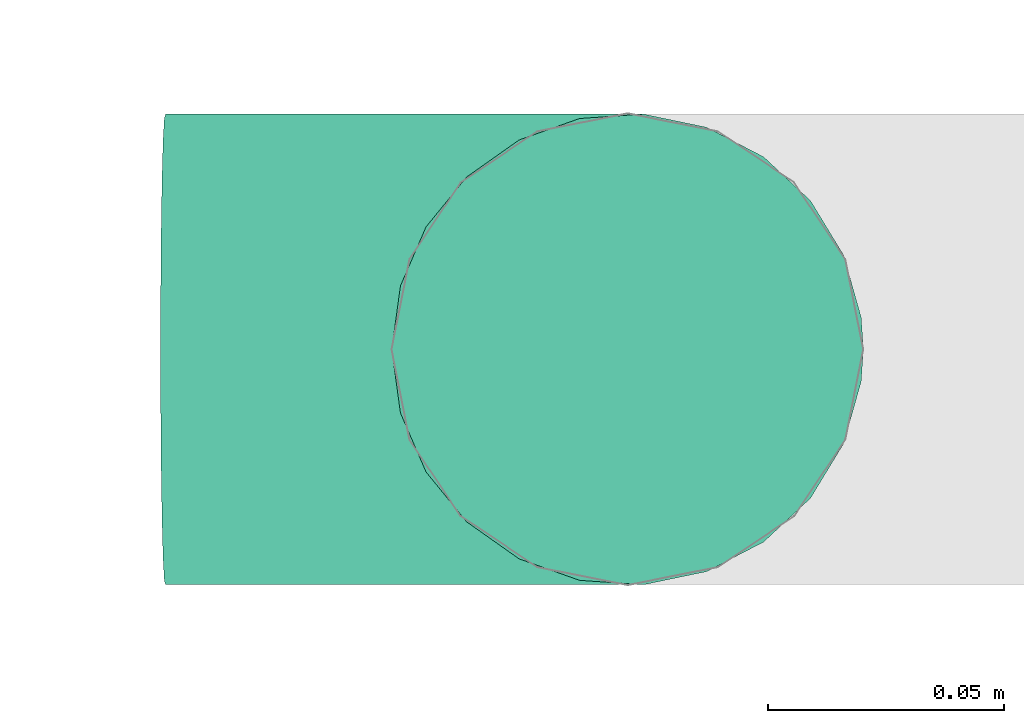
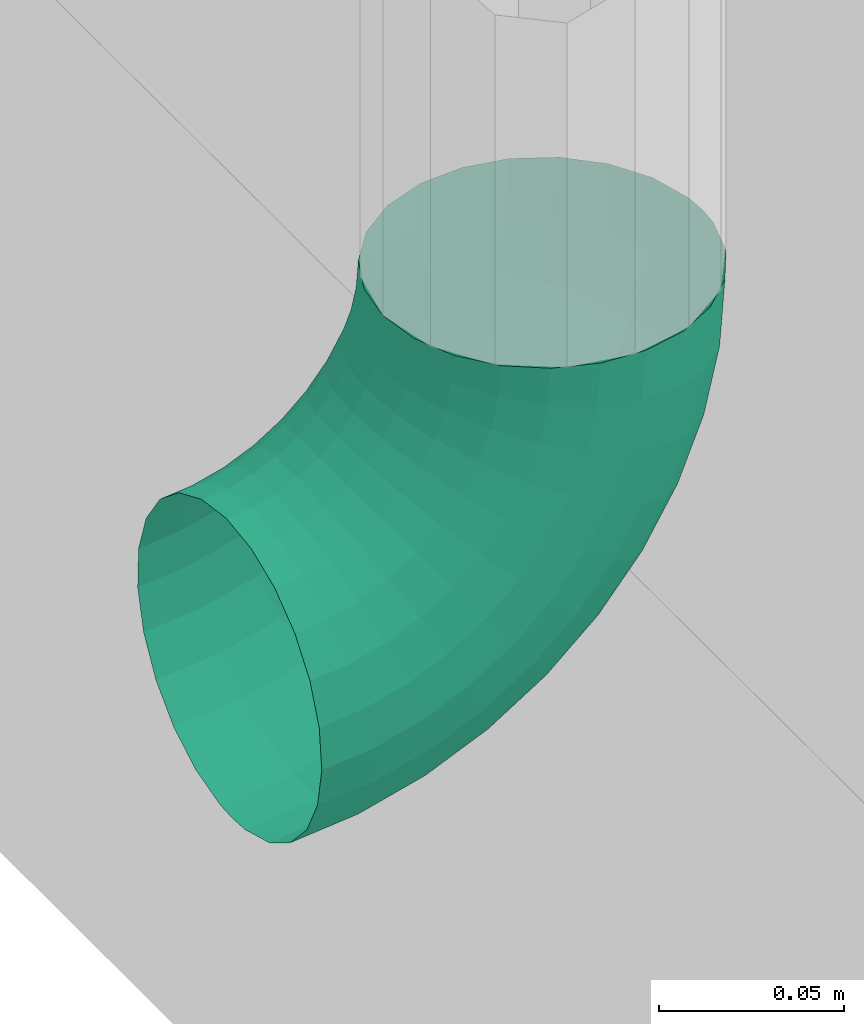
# One storey, part 79 of 106: 1 flow fitting.
"""IFC2X3 building model written with IfcOpenShell, lengths in metres."""

from ifc_helpers import new_model, entity, si_unit, converted_unit, derived_unit, money_unit, direction, frame, origin_with_axes, place, context, subcontext, project, spatial, open_shell, surface_model, material, type_object, element, save


model = new_model("IFC2X3")

# Units and contexts
model_context = context("Model", 3, precision=1e-05, world=origin_with_axes(), true_north=direction((0.0, 1.0)))
body_context = subcontext(model_context, "Body", "Model", "MODEL_VIEW", scale=1.0)
ifc_project = project(units=[si_unit("LENGTHUNIT", "METRE"), si_unit("AREAUNIT", "SQUARE_METRE"), si_unit("VOLUMEUNIT", "CUBIC_METRE"), si_unit("ABSORBEDDOSEUNIT", "GRAY"), si_unit("AMOUNTOFSUBSTANCEUNIT", "MOLE"), si_unit("DOSEEQUIVALENTUNIT", "SIEVERT"), si_unit("ELECTRICCAPACITANCEUNIT", "FARAD"), si_unit("ELECTRICCHARGEUNIT", "COULOMB"), si_unit("ELECTRICCONDUCTANCEUNIT", "SIEMENS"), si_unit("ELECTRICCURRENTUNIT", "AMPERE"), si_unit("ELECTRICRESISTANCEUNIT", "OHM"), si_unit("ELECTRICVOLTAGEUNIT", "VOLT"), si_unit("ENERGYUNIT", "JOULE"), si_unit("FORCEUNIT", "NEWTON"), si_unit("FREQUENCYUNIT", "HERTZ"), si_unit("ILLUMINANCEUNIT", "LUX"), si_unit("INDUCTANCEUNIT", "HENRY"), si_unit("LUMINOUSFLUXUNIT", "LUMEN"), si_unit("LUMINOUSINTENSITYUNIT", "CANDELA"), si_unit("MAGNETICFLUXDENSITYUNIT", "TESLA"), si_unit("MAGNETICFLUXUNIT", "WEBER"), si_unit("MASSUNIT", "GRAM"), converted_unit("PLANEANGLEUNIT", "degree", entity("IfcReal", 0.0174532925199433), si_unit("PLANEANGLEUNIT", "RADIAN"), dimensions=[0, 0, 0, 0, 0, 0, 0]), si_unit("POWERUNIT", "WATT"), si_unit("PRESSUREUNIT", "PASCAL"), si_unit("RADIOACTIVITYUNIT", "BECQUEREL"), si_unit("SOLIDANGLEUNIT", "STERADIAN"), si_unit("THERMODYNAMICTEMPERATUREUNIT", "KELVIN"), si_unit("TIMEUNIT", "SECOND"), derived_unit("ACCELERATIONUNIT", [(si_unit("LENGTHUNIT", "METRE"), 1), (si_unit("TIMEUNIT", "SECOND"), -2)]), derived_unit("ANGULARVELOCITYUNIT", [(converted_unit("PLANEANGLEUNIT", "degree", entity("IfcReal", 0.0174532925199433), si_unit("PLANEANGLEUNIT", "RADIAN"), dimensions=[0, 0, 0, 0, 0, 0, 0]), 1), (si_unit("TIMEUNIT", "SECOND"), -1)]), derived_unit("CURVATUREUNIT", [(converted_unit("PLANEANGLEUNIT", "degree", entity("IfcReal", 0.0174532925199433), si_unit("PLANEANGLEUNIT", "RADIAN"), dimensions=[0, 0, 0, 0, 0, 0, 0]), 1), (si_unit("LENGTHUNIT", "METRE"), -1)]), derived_unit("DYNAMICVISCOSITYUNIT", [(si_unit("PRESSUREUNIT", "PASCAL"), 1), (si_unit("TIMEUNIT", "SECOND"), 1)]), derived_unit("HEATFLUXDENSITYUNIT", [(si_unit("POWERUNIT", "WATT"), 1), (si_unit("LENGTHUNIT", "METRE"), -2)]), derived_unit("HEATINGVALUEUNIT", [(si_unit("ENERGYUNIT", "JOULE"), 1), (si_unit("MASSUNIT", "GRAM"), -1)]), derived_unit("INTEGERCOUNTRATEUNIT", [(si_unit("TIMEUNIT", "SECOND"), -1)]), derived_unit("IONCONCENTRATIONUNIT", [(si_unit("MASSUNIT", "GRAM"), 1), (si_unit("VOLUMEUNIT", "CUBIC_METRE"), -1)]), derived_unit("ISOTHERMALMOISTURECAPACITYUNIT", [(si_unit("VOLUMEUNIT", "CUBIC_METRE"), 1), (si_unit("MASSUNIT", "GRAM"), -1)]), derived_unit("KINEMATICVISCOSITYUNIT", [(si_unit("AREAUNIT", "SQUARE_METRE"), 1), (si_unit("TIMEUNIT", "SECOND"), -1)]), derived_unit("LINEARFORCEUNIT", [(si_unit("FORCEUNIT", "NEWTON"), 1), (si_unit("LENGTHUNIT", "METRE"), -1)]), derived_unit("LINEARMOMENTUNIT", [(si_unit("FORCEUNIT", "NEWTON"), 1), (si_unit("LENGTHUNIT", "METRE"), -1)]), derived_unit("LINEARSTIFFNESSUNIT", [(si_unit("FORCEUNIT", "NEWTON"), 1), (si_unit("LENGTHUNIT", "METRE"), -1)]), derived_unit("LINEARVELOCITYUNIT", [(si_unit("LENGTHUNIT", "METRE"), 1), (si_unit("TIMEUNIT", "SECOND"), -1)]), derived_unit("LUMINOUSINTENSITYDISTRIBUTIONUNIT", [(si_unit("LUMINOUSINTENSITYUNIT", "CANDELA"), 1), (si_unit("LUMINOUSFLUXUNIT", "LUMEN"), -1)]), derived_unit("MASSDENSITYUNIT", [(si_unit("MASSUNIT", "GRAM"), 1), (si_unit("VOLUMEUNIT", "CUBIC_METRE"), -1)]), derived_unit("MASSFLOWRATEUNIT", [(si_unit("MASSUNIT", "GRAM"), 1), (si_unit("TIMEUNIT", "SECOND"), -1)]), derived_unit("MASSPERLENGTHUNIT", [(si_unit("MASSUNIT", "GRAM"), 1), (si_unit("LENGTHUNIT", "METRE"), -1)]), derived_unit("MODULUSOFELASTICITYUNIT", [(si_unit("FORCEUNIT", "NEWTON"), 1), (si_unit("AREAUNIT", "SQUARE_METRE"), -1)]), derived_unit("MODULUSOFLINEARSUBGRADEREACTIONUNIT", [(si_unit("FORCEUNIT", "NEWTON"), 1), (si_unit("LENGTHUNIT", "METRE"), -2)]), derived_unit("MODULUSOFROTATIONALSUBGRADEREACTIONUNIT", [(si_unit("FORCEUNIT", "NEWTON"), 1), (si_unit("LENGTHUNIT", "METRE"), 1)]), derived_unit("MODULUSOFSUBGRADEREACTIONUNIT", [(si_unit("FORCEUNIT", "NEWTON"), 1), (si_unit("VOLUMEUNIT", "CUBIC_METRE"), -1)]), derived_unit("MOISTUREDIFFUSIVITYUNIT", [(si_unit("VOLUMEUNIT", "CUBIC_METRE"), 1), (si_unit("TIMEUNIT", "SECOND"), -1)]), derived_unit("MOLECULARWEIGHTUNIT", [(si_unit("MASSUNIT", "GRAM"), 1), (si_unit("AMOUNTOFSUBSTANCEUNIT", "MOLE"), -1)]), derived_unit("PLANARFORCEUNIT", [(si_unit("FORCEUNIT", "NEWTON"), 1), (si_unit("LENGTHUNIT", "METRE"), -2)]), derived_unit("ROTATIONALFREQUENCYUNIT", [(si_unit("TIMEUNIT", "SECOND"), -1)]), derived_unit("ROTATIONALMASSUNIT", [(si_unit("MASSUNIT", "GRAM"), 1), (si_unit("LENGTHUNIT", "METRE"), 2)]), derived_unit("ROTATIONALSTIFFNESSUNIT", [(si_unit("FORCEUNIT", "NEWTON"), 1), (si_unit("LENGTHUNIT", "METRE"), 1), (converted_unit("PLANEANGLEUNIT", "degree", entity("IfcReal", 0.0174532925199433), si_unit("PLANEANGLEUNIT", "RADIAN"), dimensions=[0, 0, 0, 0, 0, 0, 0]), -1)]), derived_unit("SECTIONAREAINTEGRALUNIT", [(si_unit("LENGTHUNIT", "METRE"), 5)]), derived_unit("SECTIONMODULUSUNIT", [(si_unit("LENGTHUNIT", "METRE"), 3)]), derived_unit("SHEARMODULUSUNIT", [(si_unit("FORCEUNIT", "NEWTON"), 1), (si_unit("AREAUNIT", "SQUARE_METRE"), -1)]), derived_unit("SOUNDPOWERUNIT", [(si_unit("ENERGYUNIT", "JOULE"), 1), (si_unit("TIMEUNIT", "SECOND"), -1)]), derived_unit("SPECIFICHEATCAPACITYUNIT", [(si_unit("FORCEUNIT", "NEWTON"), 1), (si_unit("MASSUNIT", "GRAM"), -1), (si_unit("THERMODYNAMICTEMPERATUREUNIT", "KELVIN"), -1)]), derived_unit("TEMPERATUREGRADIENTUNIT", [(si_unit("THERMODYNAMICTEMPERATUREUNIT", "KELVIN"), 1), (si_unit("LENGTHUNIT", "METRE"), -1)]), derived_unit("THERMALADMITTANCEUNIT", [(si_unit("POWERUNIT", "WATT"), 1), (si_unit("AREAUNIT", "SQUARE_METRE"), -1), (si_unit("THERMODYNAMICTEMPERATUREUNIT", "KELVIN"), -1)]), derived_unit("THERMALCONDUCTANCEUNIT", [(si_unit("POWERUNIT", "WATT"), 1), (si_unit("LENGTHUNIT", "METRE"), -1), (si_unit("THERMODYNAMICTEMPERATUREUNIT", "KELVIN"), -1)]), derived_unit("THERMALEXPANSIONCOEFFICIENTUNIT", [(si_unit("THERMODYNAMICTEMPERATUREUNIT", "KELVIN"), -1)]), derived_unit("THERMALRESISTANCEUNIT", [(si_unit("AREAUNIT", "SQUARE_METRE"), 1), (si_unit("POWERUNIT", "WATT"), -1)]), derived_unit("THERMALTRANSMITTANCEUNIT", [(si_unit("POWERUNIT", "WATT"), 1), (si_unit("AREAUNIT", "SQUARE_METRE"), -1), (si_unit("THERMODYNAMICTEMPERATUREUNIT", "KELVIN"), -1)]), derived_unit("TORQUEUNIT", [(si_unit("FORCEUNIT", "NEWTON"), 1), (si_unit("LENGTHUNIT", "METRE"), 1)]), derived_unit("VAPORPERMEABILITYUNIT", [(si_unit("MASSUNIT", "GRAM"), 1), (si_unit("TIMEUNIT", "SECOND"), -1)]), derived_unit("VOLUMETRICFLOWRATEUNIT", [(si_unit("VOLUMEUNIT", "CUBIC_METRE"), 1), (si_unit("TIMEUNIT", "SECOND"), -1)]), derived_unit("WARPINGCONSTANTUNIT", [(si_unit("LENGTHUNIT", "METRE"), 6)]), derived_unit("WARPINGMOMENTUNIT", [(si_unit("FORCEUNIT", "NEWTON"), 1), (si_unit("LENGTHUNIT", "METRE"), 2)]), money_unit("GBP")], contexts=[model_context])

# Site, building, storey
site_placement = place(None, origin_with_axes())
site = spatial("IfcSite", under=ifc_project, at=site_placement, Name="Site", CompositionType="ELEMENT")
building_placement = place(site_placement, origin_with_axes())
building = spatial("IfcBuilding", under=site, at=building_placement, Name="Building01", CompositionType="ELEMENT")
storey_placement = place(building_placement, origin_with_axes())
storey = spatial("IfcBuildingStorey", under=building, at=storey_placement, Name="GF", CompositionType="ELEMENT", Elevation=0.0)

# Flow fitting
ifc_material = material(Name="M_BSUK_ColdWater")
pipe_fitting_type = type_object("IfcPipeFittingType", Name="M-BmpElbow-DefaultElbow", PredefinedType="BEND")
flow_fitting_placement = place(storey_placement, frame((-0.197373, 14.95, -0.031896), z_axis=(0.01999682, 0.0, -0.99980004), x_axis=(0.99980004, 0.0, 0.01999682)))
element("IfcFlowFitting", 1, at=flow_fitting_placement, inside=storey, type_object=pipe_fitting_type, material=ifc_material, Name="M-BmpElbow-DefaultElbow", ObjectType="M-BmpElbow-DefaultElbow", context=body_context, shape_type="SurfaceModel", body=[
    surface_model("IfcShellBasedSurfaceModel", [(0.008009, -0.01349, -0.048768), (0.0, -0.01349, -0.048146), (0.0, 0.0, -0.05), (0.007723, 0.0, -0.0506), (0.015826, -0.01349, -0.05062), (0.015261, 0.0, -0.052386), (0.023264, -0.01349, -0.053657), (0.022432, 0.0, -0.055314), (0.030143, -0.01349, -0.057807), (0.029065, 0.0, -0.059315), (0.036298, -0.01349, -0.062969), (0.035, 0.0, -0.064293), (0.041582, -0.01349, -0.06902), (0.040095, 0.0, -0.070127), (0.045868, -0.01349, -0.075814), (0.044228, 0.0, -0.076679), (0.049054, -0.01349, -0.083189), (0.0473, 0.0, -0.08379), (0.051061, -0.01349, -0.090968), (0.049236, 0.0, -0.091291), (0.051844, -0.01349, -0.098963), (0.04999, 0.0, -0.099), (0.008847, -0.025979, -0.043408), (0.0, -0.025979, -0.042721), (0.017482, -0.025979, -0.045454), (0.025697, -0.025979, -0.048809), (0.033296, -0.025979, -0.053392), (0.040095, -0.025979, -0.059095), (0.045932, -0.025979, -0.065779), (0.050667, -0.025979, -0.073284), (0.054185, -0.025979, -0.081431), (0.056403, -0.025979, -0.090023), (0.057268, -0.025979, -0.098855), (0.010175, -0.036542, -0.034918), (0.0, -0.036542, -0.034128), (0.020105, -0.036542, -0.037271), (0.029553, -0.036542, -0.041129), (0.038291, -0.036542, -0.0464), (0.046111, -0.036542, -0.052958), (0.052823, -0.036542, -0.060645), (0.058268, -0.036542, -0.069276), (0.062315, -0.036542, -0.078645), (0.064865, -0.036542, -0.088526), (0.065859, -0.036542, -0.098683), (0.011893, -0.044394, -0.023927), (0.0, -0.044394, -0.023003), (0.0235, -0.044394, -0.026677), (0.034544, -0.044394, -0.031187), (0.044758, -0.044394, -0.037348), (0.053898, -0.044394, -0.045013), (0.061744, -0.044394, -0.053998), (0.068109, -0.044394, -0.064087), (0.072838, -0.044394, -0.075038), (0.07582, -0.044394, -0.086588), (0.076981, -0.044394, -0.09846), (0.013875, -0.048954, -0.011251), (0.0, -0.048954, -0.010173), (0.027416, -0.048954, -0.014459), (0.0403, -0.048954, -0.01972), (0.052216, -0.048954, -0.026908), (0.062879, -0.048954, -0.035851), (0.072033, -0.048954, -0.046333), (0.079458, -0.048954, -0.058103), (0.084976, -0.048954, -0.070879), (0.088454, -0.048954, -0.084353), (0.089809, -0.048954, -0.098204), (0.015973, -0.049883, 0.002171), (0.0, -0.049883, 0.003412), (0.031562, -0.049883, -0.001522), (0.046394, -0.049883, -0.007579), (0.060113, -0.049883, -0.015854), (0.072389, -0.049883, -0.026149), (0.082927, -0.049883, -0.038216), (0.091475, -0.049883, -0.051767), (0.097827, -0.049883, -0.066475), (0.101831, -0.049883, -0.081987), (0.103391, -0.049883, -0.097932), (0.018032, -0.047113, 0.015343), (0.0, -0.047113, 0.016744), (0.035632, -0.047113, 0.011174), (0.052376, -0.047113, 0.004336), (0.067863, -0.047113, -0.005006), (0.081721, -0.047113, -0.016628), (0.093618, -0.047113, -0.030251), (0.103268, -0.047113, -0.045548), (0.110439, -0.047113, -0.062153), (0.114959, -0.047113, -0.079665), (0.116721, -0.047113, -0.097665), (0.0199, -0.040848, 0.027288), (0.0, -0.040848, 0.028834), (0.039322, -0.040848, 0.022687), (0.0578, -0.040848, 0.015141), (0.074891, -0.040848, 0.004831), (0.090184, -0.040848, -0.007994), (0.103313, -0.040848, -0.023028), (0.113962, -0.040848, -0.039909), (0.121876, -0.040848, -0.058233), (0.126865, -0.040848, -0.077559), (0.128808, -0.040848, -0.097424), (0.021437, -0.031554, 0.03712), (0.0, -0.031554, 0.038786), (0.042359, -0.031554, 0.032163), (0.062264, -0.031554, 0.024035), (0.080675, -0.031554, 0.012929), (0.09715, -0.031554, -0.000887), (0.111293, -0.031554, -0.017083), (0.122765, -0.031554, -0.035268), (0.13129, -0.031554, -0.055007), (0.136664, -0.031554, -0.075826), (0.138758, -0.031554, -0.097225), (0.022529, -0.01992, 0.04411), (0.0, -0.01992, 0.045861), (0.044518, -0.01992, 0.038901), (0.065438, -0.01992, 0.030358), (0.084788, -0.01992, 0.018686), (0.102103, -0.01992, 0.004165), (0.116966, -0.01992, -0.012856), (0.129023, -0.01992, -0.031968), (0.137983, -0.01992, -0.052713), (0.143631, -0.01992, -0.074593), (0.145831, -0.01992, -0.097083), (0.023097, -0.006808, 0.04774), (0.0, -0.006808, 0.049534), (0.045639, -0.006808, 0.042399), (0.067087, -0.006808, 0.033641), (0.086924, -0.006808, 0.021675), (0.104674, -0.006808, 0.006789), (0.119912, -0.006808, -0.010661), (0.132273, -0.006808, -0.030254), (0.141458, -0.006808, -0.051522), (0.147248, -0.006808, -0.073953), (0.149504, -0.006808, -0.09701), (0.0, 0.0, 0.05), (0.045639, 0.006808, 0.042399), (0.023097, 0.006808, 0.04774), (0.067087, 0.006808, 0.033641), (0.086924, 0.006808, 0.021675), (0.104674, 0.006808, 0.006789), (0.119912, 0.006808, -0.010661), (0.132273, 0.006808, -0.030254), (0.141458, 0.006808, -0.051522), (0.147248, 0.006808, -0.073953), (0.14997, 0.0, -0.097), (0.149504, 0.006808, -0.09701), (0.022529, 0.01992, 0.04411), (0.0, 0.01992, 0.045861), (0.0, 0.006808, 0.049534), (0.044518, 0.01992, 0.038901), (0.065438, 0.01992, 0.030358), (0.084788, 0.01992, 0.018686), (0.102103, 0.01992, 0.004165), (0.116966, 0.01992, -0.012856), (0.129023, 0.01992, -0.031968), (0.137983, 0.01992, -0.052713), (0.143631, 0.01992, -0.074593), (0.145831, 0.01992, -0.097083), (0.021437, 0.031554, 0.03712), (0.0, 0.031554, 0.038786), (0.042359, 0.031554, 0.032163), (0.062264, 0.031554, 0.024035), (0.080675, 0.031554, 0.012929), (0.09715, 0.031554, -0.000887), (0.111293, 0.031554, -0.017083), (0.122765, 0.031554, -0.035268), (0.13129, 0.031554, -0.055007), (0.136664, 0.031554, -0.075826), (0.138758, 0.031554, -0.097225), (0.0199, 0.040848, 0.027288), (0.0, 0.040848, 0.028834), (0.039322, 0.040848, 0.022687), (0.0578, 0.040848, 0.015141), (0.074891, 0.040848, 0.004831), (0.090184, 0.040848, -0.007994), (0.103313, 0.040848, -0.023028), (0.113962, 0.040848, -0.039909), (0.121876, 0.040848, -0.058233), (0.126865, 0.040848, -0.077559), (0.128808, 0.040848, -0.097424), (0.018032, 0.047113, 0.015343), (0.0, 0.047113, 0.016744), (0.035632, 0.047113, 0.011174), (0.052376, 0.047113, 0.004336), (0.067863, 0.047113, -0.005006), (0.081721, 0.047113, -0.016628), (0.093618, 0.047113, -0.030251), (0.103268, 0.047113, -0.045548), (0.110439, 0.047113, -0.062153), (0.114959, 0.047113, -0.079665), (0.116721, 0.047113, -0.097665), (0.015973, 0.049883, 0.002171), (0.0, 0.049883, 0.003412), (0.031562, 0.049883, -0.001522), (0.046394, 0.049883, -0.007579), (0.060113, 0.049883, -0.015854), (0.072389, 0.049883, -0.026149), (0.082927, 0.049883, -0.038216), (0.091475, 0.049883, -0.051767), (0.097827, 0.049883, -0.066475), (0.101831, 0.049883, -0.081987), (0.103391, 0.049883, -0.097932), (0.013875, 0.048954, -0.011251), (0.0, 0.048954, -0.010173), (0.027416, 0.048954, -0.014459), (0.0403, 0.048954, -0.01972), (0.052216, 0.048954, -0.026908), (0.062879, 0.048954, -0.035851), (0.072033, 0.048954, -0.046333), (0.079458, 0.048954, -0.058103), (0.084976, 0.048954, -0.070879), (0.088454, 0.048954, -0.084353), (0.089809, 0.048954, -0.098204), (0.011893, 0.044394, -0.023927), (0.0, 0.044394, -0.023003), (0.0235, 0.044394, -0.026677), (0.034544, 0.044394, -0.031187), (0.044758, 0.044394, -0.037348), (0.053898, 0.044394, -0.045013), (0.061744, 0.044394, -0.053998), (0.068109, 0.044394, -0.064087), (0.072838, 0.044394, -0.075038), (0.07582, 0.044394, -0.086588), (0.076981, 0.044394, -0.09846), (0.010175, 0.036542, -0.034918), (0.0, 0.036542, -0.034128), (0.020105, 0.036542, -0.037271), (0.029553, 0.036542, -0.041129), (0.038291, 0.036542, -0.0464), (0.046111, 0.036542, -0.052958), (0.052823, 0.036542, -0.060645), (0.058268, 0.036542, -0.069276), (0.062315, 0.036542, -0.078645), (0.064865, 0.036542, -0.088526), (0.065859, 0.036542, -0.098683), (0.008847, 0.025979, -0.043408), (0.0, 0.025979, -0.042721), (0.017482, 0.025979, -0.045454), (0.025697, 0.025979, -0.048809), (0.033296, 0.025979, -0.053392), (0.040095, 0.025979, -0.059095), (0.045932, 0.025979, -0.065779), (0.050667, 0.025979, -0.073284), (0.054185, 0.025979, -0.081431), (0.056403, 0.025979, -0.090023), (0.057268, 0.025979, -0.098855), (0.008009, 0.01349, -0.048768), (0.0, 0.01349, -0.048146), (0.015826, 0.01349, -0.05062), (0.023264, 0.01349, -0.053657), (0.030143, 0.01349, -0.057807), (0.036298, 0.01349, -0.062969), (0.041582, 0.01349, -0.06902), (0.045868, 0.01349, -0.075814), (0.049054, 0.01349, -0.083189), (0.051061, 0.01349, -0.090968), (0.051844, 0.01349, -0.098963)], [open_shell([[[0, 1, 2, 3]], [[4, 0, 3, 5]], [[6, 4, 5, 7]], [[8, 6, 7, 9]], [[10, 8, 9, 11]], [[12, 10, 11, 13]], [[14, 12, 13, 15]], [[16, 14, 15, 17]], [[18, 16, 17, 19]], [[20, 18, 19, 21]], [[22, 23, 1, 0]], [[24, 22, 0, 4]], [[25, 24, 4, 6]], [[26, 25, 6, 8]], [[27, 26, 8, 10]], [[28, 27, 10, 12]], [[29, 28, 12, 14]], [[30, 29, 14, 16]], [[31, 30, 16, 18]], [[32, 31, 18, 20]], [[33, 34, 23, 22]], [[35, 33, 22, 24]], [[36, 35, 24, 25]], [[37, 36, 25, 26]], [[38, 37, 26, 27]], [[39, 38, 27, 28]], [[40, 39, 28, 29]], [[41, 40, 29, 30]], [[42, 41, 30, 31]], [[43, 42, 31, 32]], [[44, 45, 34, 33]], [[46, 44, 33, 35]], [[47, 46, 35, 36]], [[48, 47, 36, 37]], [[49, 48, 37, 38]], [[50, 49, 38, 39]], [[51, 50, 39, 40]], [[52, 51, 40, 41]], [[53, 52, 41, 42]], [[54, 53, 42, 43]], [[55, 56, 45, 44]], [[57, 55, 44, 46]], [[58, 57, 46, 47]], [[59, 58, 47, 48]], [[60, 59, 48, 49]], [[61, 60, 49, 50]], [[62, 61, 50, 51]], [[63, 62, 51, 52]], [[64, 63, 52, 53]], [[65, 64, 53, 54]], [[66, 67, 56, 55]], [[68, 66, 55, 57]], [[69, 68, 57, 58]], [[70, 69, 58, 59]], [[71, 70, 59, 60]], [[72, 71, 60, 61]], [[73, 72, 61, 62]], [[74, 73, 62, 63]], [[75, 74, 63, 64]], [[76, 75, 64, 65]], [[77, 78, 67, 66]], [[79, 77, 66, 68]], [[80, 79, 68, 69]], [[81, 80, 69, 70]], [[82, 81, 70, 71]], [[83, 82, 71, 72]], [[84, 83, 72, 73]], [[85, 84, 73, 74]], [[86, 85, 74, 75]], [[87, 86, 75, 76]], [[88, 89, 78, 77]], [[90, 88, 77, 79]], [[91, 90, 79, 80]], [[92, 91, 80, 81]], [[93, 92, 81, 82]], [[94, 93, 82, 83]], [[95, 94, 83, 84]], [[96, 95, 84, 85]], [[97, 96, 85, 86]], [[98, 97, 86, 87]], [[99, 100, 89, 88]], [[101, 99, 88, 90]], [[102, 101, 90, 91]], [[103, 102, 91, 92]], [[104, 103, 92, 93]], [[105, 104, 93, 94]], [[106, 105, 94, 95]], [[107, 106, 95, 96]], [[108, 107, 96, 97]], [[109, 108, 97, 98]], [[110, 111, 100, 99]], [[112, 110, 99, 101]], [[113, 112, 101, 102]], [[114, 113, 102, 103]], [[115, 114, 103, 104]], [[116, 115, 104, 105]], [[117, 116, 105, 106]], [[118, 117, 106, 107]], [[119, 118, 107, 108]], [[120, 119, 108, 109]], [[121, 122, 111, 110]], [[123, 121, 110, 112]], [[124, 123, 112, 113]], [[125, 124, 113, 114]], [[126, 125, 114, 115]], [[127, 126, 115, 116]], [[128, 127, 116, 117]], [[129, 128, 117, 118]], [[130, 129, 118, 119]], [[131, 130, 119, 120]], [[132, 122, 121]], [[133, 134, 121, 123]], [[135, 133, 123, 124]], [[136, 135, 124, 125]], [[137, 136, 125, 126]], [[138, 137, 126, 127]], [[139, 138, 127, 128]], [[140, 139, 128, 129]], [[141, 140, 129, 130]], [[142, 143, 141]], [[144, 145, 146, 134]], [[147, 144, 134, 133]], [[148, 147, 133, 135]], [[149, 148, 135, 136]], [[150, 149, 136, 137]], [[151, 150, 137, 138]], [[152, 151, 138, 139]], [[153, 152, 139, 140]], [[154, 153, 140, 141]], [[155, 154, 141, 143]], [[156, 157, 145, 144]], [[158, 156, 144, 147]], [[159, 158, 147, 148]], [[160, 159, 148, 149]], [[161, 160, 149, 150]], [[162, 161, 150, 151]], [[163, 162, 151, 152]], [[164, 163, 152, 153]], [[165, 164, 153, 154]], [[166, 165, 154, 155]], [[167, 168, 157, 156]], [[169, 167, 156, 158]], [[170, 169, 158, 159]], [[171, 170, 159, 160]], [[172, 171, 160, 161]], [[173, 172, 161, 162]], [[174, 173, 162, 163]], [[175, 174, 163, 164]], [[176, 175, 164, 165]], [[177, 176, 165, 166]], [[178, 179, 168, 167]], [[180, 178, 167, 169]], [[181, 180, 169, 170]], [[182, 181, 170, 171]], [[183, 182, 171, 172]], [[184, 183, 172, 173]], [[185, 184, 173, 174]], [[186, 185, 174, 175]], [[187, 186, 175, 176]], [[188, 187, 176, 177]], [[189, 190, 179, 178]], [[191, 189, 178, 180]], [[192, 191, 180, 181]], [[193, 192, 181, 182]], [[194, 193, 182, 183]], [[195, 194, 183, 184]], [[196, 195, 184, 185]], [[197, 196, 185, 186]], [[198, 197, 186, 187]], [[199, 198, 187, 188]], [[200, 201, 190, 189]], [[202, 200, 189, 191]], [[203, 202, 191, 192]], [[204, 203, 192, 193]], [[205, 204, 193, 194]], [[206, 205, 194, 195]], [[207, 206, 195, 196]], [[208, 207, 196, 197]], [[209, 208, 197, 198]], [[210, 209, 198, 199]], [[211, 212, 201, 200]], [[213, 211, 200, 202]], [[214, 213, 202, 203]], [[215, 214, 203, 204]], [[216, 215, 204, 205]], [[217, 216, 205, 206]], [[218, 217, 206, 207]], [[219, 218, 207, 208]], [[220, 219, 208, 209]], [[221, 220, 209, 210]], [[222, 223, 212, 211]], [[224, 222, 211, 213]], [[225, 224, 213, 214]], [[226, 225, 214, 215]], [[227, 226, 215, 216]], [[228, 227, 216, 217]], [[229, 228, 217, 218]], [[230, 229, 218, 219]], [[231, 230, 219, 220]], [[232, 231, 220, 221]], [[233, 234, 223, 222]], [[235, 233, 222, 224]], [[236, 235, 224, 225]], [[237, 236, 225, 226]], [[238, 237, 226, 227]], [[239, 238, 227, 228]], [[240, 239, 228, 229]], [[241, 240, 229, 230]], [[242, 241, 230, 231]], [[243, 242, 231, 232]], [[244, 245, 234, 233]], [[246, 244, 233, 235]], [[247, 246, 235, 236]], [[248, 247, 236, 237]], [[249, 248, 237, 238]], [[250, 249, 238, 239]], [[251, 250, 239, 240]], [[252, 251, 240, 241]], [[253, 252, 241, 242]], [[254, 253, 242, 243]], [[3, 2, 245, 244]], [[5, 3, 244, 246]], [[7, 5, 246, 247]], [[9, 7, 247, 248]], [[11, 9, 248, 249]], [[13, 11, 249, 250]], [[15, 13, 250, 251]], [[17, 15, 251, 252]], [[19, 17, 252, 253]], [[21, 19, 253, 254]], [[142, 141, 130]], [[130, 131, 142]], [[134, 146, 132]], [[121, 134, 132]]])]),
])

save(model, "model.ifc")
